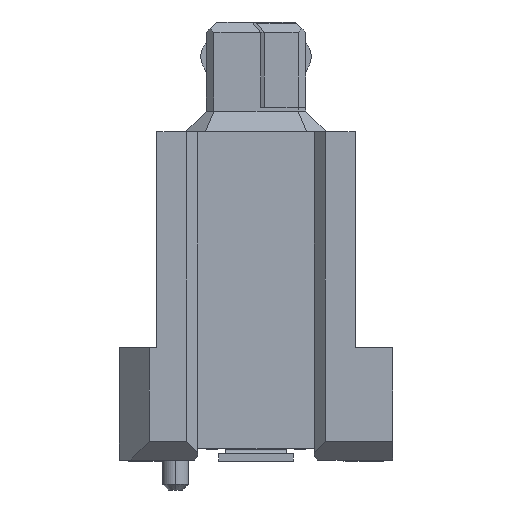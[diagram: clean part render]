
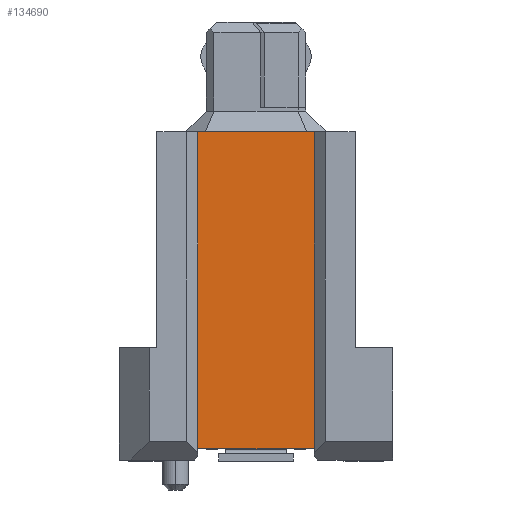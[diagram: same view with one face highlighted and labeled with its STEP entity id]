
A CAD part, left-side view. The second image highlights one B-rep face of the part: STEP entity #134690.
In plain terms, the highlighted planar face has unit normal (-1, 0, 0).
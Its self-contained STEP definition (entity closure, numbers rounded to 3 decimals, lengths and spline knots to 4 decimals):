
#134300=CARTESIAN_POINT('',(-10.0318,-2.3602,5.3));
#134310=DIRECTION('',(-1.,0.,0.));
#134320=DIRECTION('',(0.,1.,0.));
#134330=AXIS2_PLACEMENT_3D('',#134300,#134310,#134320);
#134340=PLANE('',#134330);
#134350=CARTESIAN_POINT('',(-10.0318,3.4098,0.));
#134360=DIRECTION('',(0.,0.,-1.));
#134370=VECTOR('',#134360,1.);
#134380=LINE('',#134350,#134370);
#134390=CARTESIAN_POINT('',(-10.0318,3.4098,4.2));
#134400=VERTEX_POINT('',#134390);
#134410=CARTESIAN_POINT('',(-10.0318,3.4098,1.1));
#134420=VERTEX_POINT('',#134410);
#134430=EDGE_CURVE('',#134400,#134420,#134380,.T.);
#134440=ORIENTED_EDGE('',*,*,#134430,.T.);
#134450=CARTESIAN_POINT('',(-10.0318,1.,4.2));
#134460=DIRECTION('',(0.,-1.,0.));
#134470=VECTOR('',#134460,1.);
#134480=LINE('',#134450,#134470);
#134490=CARTESIAN_POINT('',(-10.0318,-5.0602,4.2));
#134500=VERTEX_POINT('',#134490);
#134510=EDGE_CURVE('',#134400,#134500,#134480,.T.);
#134520=ORIENTED_EDGE('',*,*,#134510,.F.);
#134530=CARTESIAN_POINT('',(-10.0318,-5.0602,0.));
#134540=DIRECTION('',(0.,0.,-1.));
#134550=VECTOR('',#134540,1.);
#134560=LINE('',#134530,#134550);
#134570=CARTESIAN_POINT('',(-10.0318,-5.0602,1.1));
#134580=VERTEX_POINT('',#134570);
#134590=EDGE_CURVE('',#134500,#134580,#134560,.T.);
#134600=ORIENTED_EDGE('',*,*,#134590,.F.);
#134610=CARTESIAN_POINT('',(-10.0318,-1.3602,1.1));
#134620=DIRECTION('',(0.,1.,0.));
#134630=VECTOR('',#134620,1.);
#134640=LINE('',#134610,#134630);
#134650=EDGE_CURVE('',#134580,#134420,#134640,.T.);
#134660=ORIENTED_EDGE('',*,*,#134650,.F.);
#134670=EDGE_LOOP('',(#134660,#134600,#134520,#134440));
#134680=FACE_OUTER_BOUND('',#134670,.T.);
#134690=ADVANCED_FACE('',(#134680),#134340,.T.);
